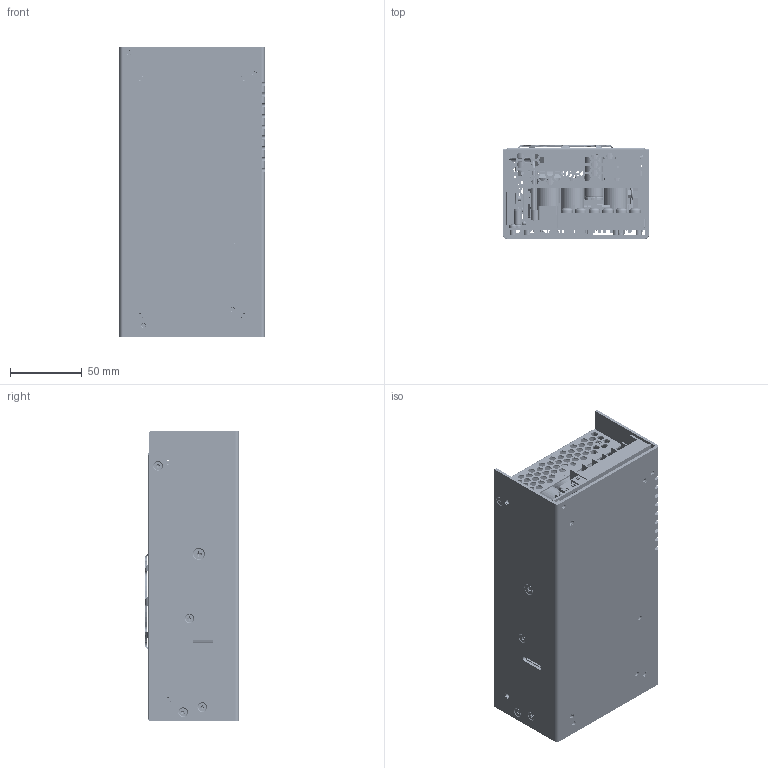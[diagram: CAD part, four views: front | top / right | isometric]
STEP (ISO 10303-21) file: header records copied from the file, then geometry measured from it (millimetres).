
FILE_DESCRIPTION (( 'STEP AP203' ), '1' );
FILE_NAME ('MHP650PSXX-TF_STEP.STEP', '2010-11-02T10:36:14', ( 'Leonard Torio' ), ( 'Hewlett-Packard Company' ), 'SwSTEP 2.0', 'SolidWorks 2010', '' );
FILE_SCHEMA (( 'CONFIG_CONTROL_DESIGN' ));
Products named in the file (112): CFLM3-1; 10007596 (U Channel Formed); ASSY HEATSINK DIODE COMPLETE; HTSK SECONDARY (10007599); HEATSINK SECONDARY (10007599); TO247_3P; 10007598; HEATSINK PRIMARY (10007598); INSULATOR SLEEVE TO-220; T0220 WITH TUBE; Retainer 2X TO220 (10001661); Bridge Rectifier_D20XB60; SO14 PACKAGE; TO220_7P_01; OPTO_SMD; Connector SIP_1X4P_2mm_ RA; ASSY TRF EER42 TYPE1; TERMINAL BLOCK 3P 3_5MM SCREW 9_5MM VER (10007696)_3P; TERMINAL BLOCK 6P M4 SCREW 9_5MM CTR VER (10007698)_6P; Conn_JST_S10B-PHDSS-B_Vertical; GATE DRIVE TRF; TOROID T2 MOUNT; Capacitor Disc_0.300 D_0.200" C; TO220_3P_01; CAP FILM_19X10X18MM; RESISTOR BPR58; Capacitor Disc_0.300 D_0.300" C; Capacitor Elec_30mm D_30mm H; Capacitor Elec_05mm D_10mm H; L801; 390002 TUBING SHRINK; J1; TUBE J1; SCREW M3_5X12 PFH 90 DEG CLR (10001674) ; Retainer Metric 2X TO-218 Package (10001662); SCREW M3X6MM PPH SQ CONE CLR STL Z1 (10006712); INSULATOR  OUTPUT DIODE(1000XXXX); INSULATOR SLEEVE TO-247 (10000709); CONN HOUSING 2 POS 2MM (10008258); FAN 70X70_ADDA_70x70X15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
Assembly tree (191 placements, depth 6):
  MHP650PSXX-TF_STEP
    M3X6 PFH 90 DEG CLR (10001669)  x4
    ASSY TOP FAN COVER (10007590)
      Nut_Square Cone (Metric)_01_M3  x4
      CONN HOUSING 2 POS 2MM (10008258)
      TOP-FAN COVER FORMED (10007594)
        chm3-20  x4
        10007594
      FAN 70X70_ADDA_70x70X15
    FINAL ASSY MHP650
      INSULATOR SLEEVE TO-247 (10000709)  x2
      INSULATOR BUSHING (300045)  x2
      SCREW M3X6MM PPH SQ CONE CLR STL Z1 (10006712)  x5
      M3X10 PFH 90DEG (10001671)  x3
      NUT HEX M3 KEPS CLR STL Z1 (10001680)_M3  x2
      Washer Flat M3 7MM OD(10001676)_M3 (.5 MM THICK)  x2
      ASSY PCB MAINBOARD MHP650
        L801
        TO247_3P
        EMI CHOKE  x2
        TO220_3P_01  x3
        Capacitor Disc_0.300 D_0.300" C  x5
        Fuse 5X20 216P  x2
        Resistor 5W_SBlock_14X10X37
        Capacitor Elec_05mm D_10mm H  x3
        Capacitor Elec_16mm D_35  x3
        RESISTOR BPR58  x3
        JUMPER
          J1
          TUBE J1
        AUX TRF
        Capacitor Elec_08mm D_13mm H
        Pot_Side adj_Type1_01
        CONN_JST_B2B_PH_KL
        ASSY PRIMARY HTSK
          TO247 WITH TUBE
            INSULATOR SLEEVE TO-247 (10000709)
            TO247_3P
          SCREW M3_5X12 PFH 90 DEG CLR (10001674)   x2
          10007598
            HEATSINK PRIMARY (10007598)
            HTSK LEG CLIP(10007602)  x2
          T0220 WITH TUBE  x2
            INSULATOR SLEEVE TO-220
            TO220_3P_01
          TO247 WITH TUBE
            TO247_3P
            INSULATOR SLEEVE TO-247 (10000709)
          Retainer Metric 2X TO-218 Package (10001662)
          Retainer 2X TO220 (10001661)
        ASSY BRIDGE HTSK
          HTSK BRIDGE
            HEATSINK BRIDGE (10007597)
            HTSK LEG CLIP(10007602)  x2
          M3X10 PFH 90DEG (10001671)  x2
          NUT HEX M3 KEPS CLR STL Z1 (10001680)_M3  x2
          Bridge Rectifier_D20XB60
          TO220_7P_01
        Capacitor Elec_06mm D_13mm H
        Capacitor Film_31x16_21mm H
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Bounding box: 101.6 x 65.5 x 203.2 mm (x, y, z)
Volume: 468578.3 mm3; surface area: 463444.5 mm2
Topology: 181 solids, 204 shells, 8507 faces, 21426 edges, 13693 vertices
Faces by surface type: plane 5685, cylinder 1879, cone 564, torus 284, bspline 81, sphere 14
Entity records: 196788 total; most frequent: CARTESIAN_POINT 35303, ORIENTED_EDGE 30334, DIRECTION 30145, EDGE_CURVE 15167, VECTOR 11887, LINE 11887, VERTEX_POINT 9781, AXIS2_PLACEMENT_3D 9129
